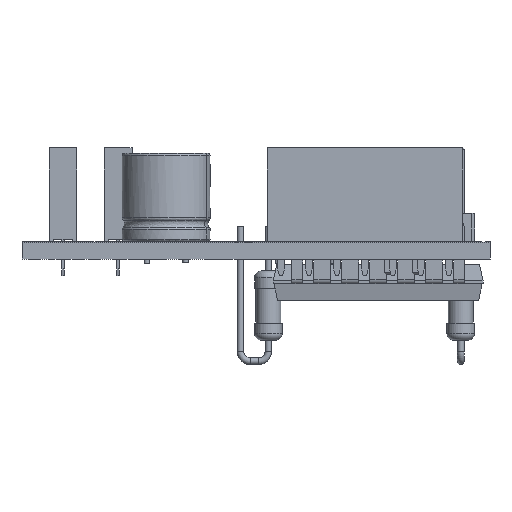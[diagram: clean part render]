
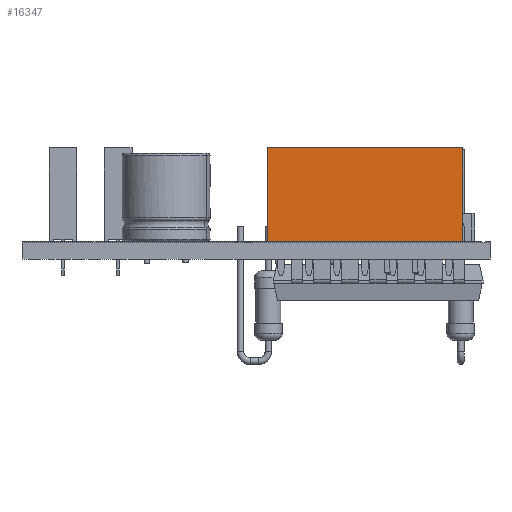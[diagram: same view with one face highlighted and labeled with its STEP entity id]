
A CAD part, front view. The second image highlights one B-rep face of the part: STEP entity #16347.
In plain terms, the highlighted planar face has unit normal (0, -1, 0) as drawn and (-1, 0, 0) by its records, which use the part's own axes.
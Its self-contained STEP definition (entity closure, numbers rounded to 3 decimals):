
#15424 = VERTEX_POINT('',#15425);
#15425 = CARTESIAN_POINT('',(-1.27,-16.51,0.));
#15433 = EDGE_CURVE('',#15424,#15434,#15436,.T.);
#15434 = VERTEX_POINT('',#15435);
#15435 = CARTESIAN_POINT('',(-1.27,-16.51,8.5));
#15436 = LINE('',#15437,#15438);
#15437 = CARTESIAN_POINT('',(-1.27,-16.51,0.));
#15438 = VECTOR('',#15439,1.);
#15439 = DIRECTION('',(0.,0.,1.));
#15496 = VERTEX_POINT('',#15497);
#15497 = CARTESIAN_POINT('',(-1.27,1.27,8.5));
#15503 = EDGE_CURVE('',#15504,#15496,#15506,.T.);
#15504 = VERTEX_POINT('',#15505);
#15505 = CARTESIAN_POINT('',(-1.27,1.27,0.));
#15506 = LINE('',#15507,#15508);
#15507 = CARTESIAN_POINT('',(-1.27,1.27,0.));
#15508 = VECTOR('',#15509,1.);
#15509 = DIRECTION('',(0.,0.,1.));
#15568 = EDGE_CURVE('',#15496,#15434,#15569,.T.);
#15569 = LINE('',#15570,#15571);
#15570 = CARTESIAN_POINT('',(-1.27,1.27,8.5));
#15571 = VECTOR('',#15572,1.);
#15572 = DIRECTION('',(0.,-1.,0.));
#15829 = EDGE_CURVE('',#15504,#15424,#15830,.T.);
#15830 = LINE('',#15831,#15832);
#15831 = CARTESIAN_POINT('',(-1.27,1.27,0.));
#15832 = VECTOR('',#15833,1.);
#15833 = DIRECTION('',(0.,-1.,0.));
#16347 = ADVANCED_FACE('',(#16348),#16354,.F.);
#16348 = FACE_BOUND('',#16349,.F.);
#16349 = EDGE_LOOP('',(#16350,#16351,#16352,#16353));
#16350 = ORIENTED_EDGE('',*,*,#15503,.T.);
#16351 = ORIENTED_EDGE('',*,*,#15568,.T.);
#16352 = ORIENTED_EDGE('',*,*,#15433,.F.);
#16353 = ORIENTED_EDGE('',*,*,#15829,.F.);
#16354 = PLANE('',#16355);
#16355 = AXIS2_PLACEMENT_3D('',#16356,#16357,#16358);
#16356 = CARTESIAN_POINT('',(-1.27,1.27,0.));
#16357 = DIRECTION('',(1.,0.,0.));
#16358 = DIRECTION('',(0.,-1.,0.));
